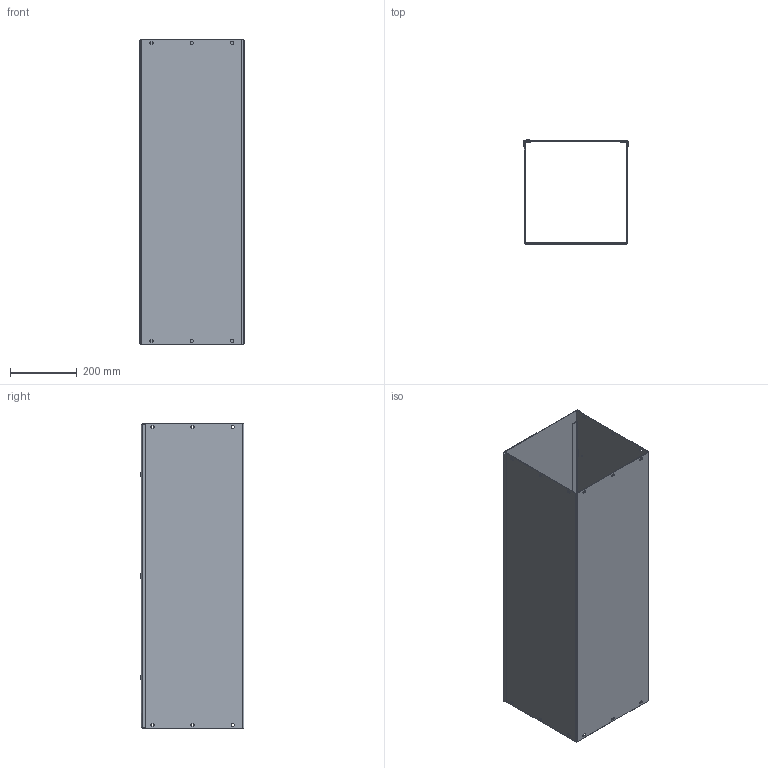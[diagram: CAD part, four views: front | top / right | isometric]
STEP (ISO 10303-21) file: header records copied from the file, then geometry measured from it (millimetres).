
FILE_DESCRIPTION((''),'2;1');
FILE_NAME('D:\scratch\ideas\f1212g36h.stp','2006-11-22T08:59:35',( 'User'),('SDRC'),'I-DEAS Master Series 9','UNIX','Yes');
FILE_SCHEMA(('AUTOMOTIVE_DESIGN { 1 0 10303 214 0 1 1 1 }'));
Length unit declared in the file: inch
Products named in the file (3): 16744; ww_cvr_12x36; ww_body_12x12x36
Assembly tree (2 placements, depth 2):
  16744
    ww_cvr_12x36
    ww_body_12x12x36
Bounding box: 317.51 x 311.76 x 914.4 mm (x, y, z)
Volume: 2144463 mm3; surface area: 2358345.7 mm2
Topology: 2 solids, 2 shells, 211 faces, 569 edges, 372 vertices
Faces by surface type: bspline 211
Entity records: 7123 total; most frequent: CARTESIAN_POINT 3526, ORIENTED_EDGE 1138, EDGE_CURVE 569, VERTEX_POINT 372, QUASI_UNIFORM_CURVE 334, EDGE_LOOP 285, FACE_OUTER_BOUND 211, ADVANCED_FACE 211
